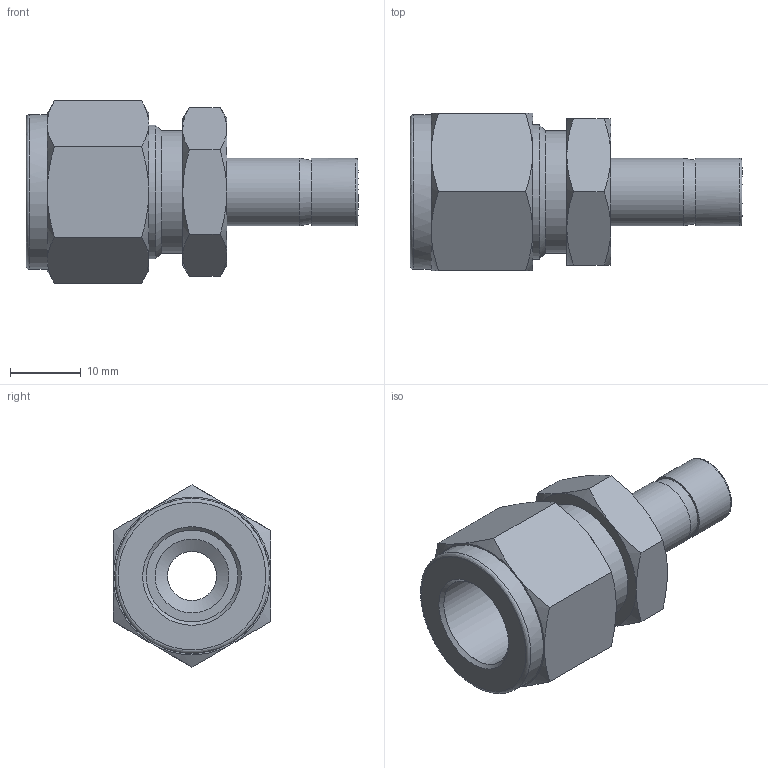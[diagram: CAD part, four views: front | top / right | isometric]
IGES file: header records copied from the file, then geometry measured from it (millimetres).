
Global section: file name: SR-8-6; native system: Autodesk Inventor 2016; preprocessor: unknown; author: DESIGNPC2; date: 20151112.115318; units: millimetre
Bounding box: 46.8 x 22.23 x 25.67 mm (x, y, z)
Volume: 8005.6 mm3; surface area: 4945 mm2
Topology: 1 solids, 1 shells, 59 faces, 154 edges, 104 vertices
Faces by surface type: bspline 59
